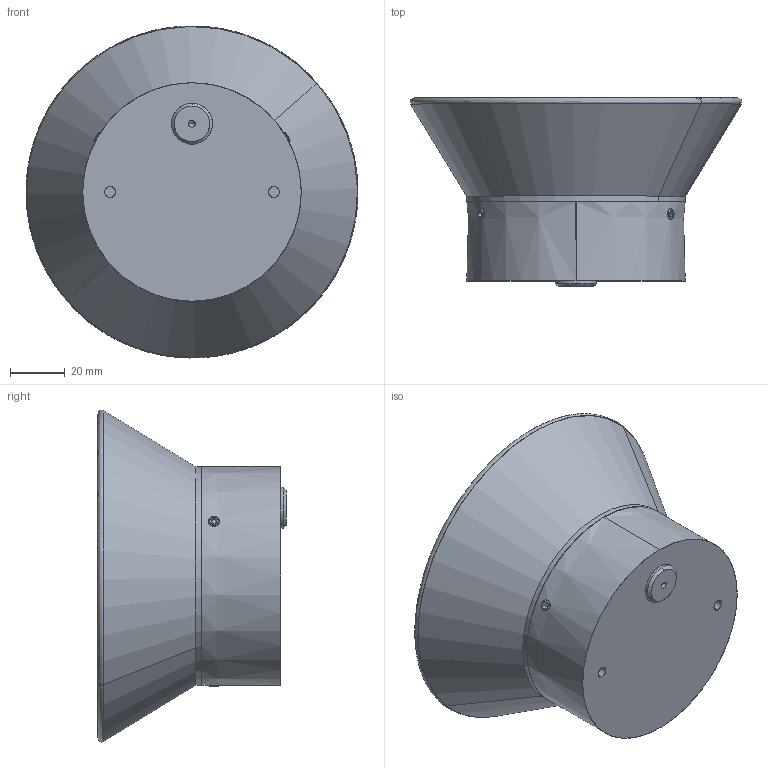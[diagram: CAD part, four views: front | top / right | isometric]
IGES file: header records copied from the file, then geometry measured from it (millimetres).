
Start section: SolidWorks IGES file using analytic representation for surfaces
Global section: file name: \\srvficheros\grupos\DISENYO\DESARROLLO DE PRODUCTO\_3D_WEB\YES-A3993090\YES-A3993090.IGS; native system: SolidWorks 2025; preprocessor: SolidWorks 2025; author: d.pons; date: 260115.120040; units: millimetre
Bounding box: 121.6 x 69.1 x 121.61 mm (x, y, z)
Surface area: 86192 mm2 (no closed solid volume)
Topology: 0 solids, 0 shells, 204 faces, 4129 edges, 4115 vertices
Faces by surface type: revolution 137, bspline 67
